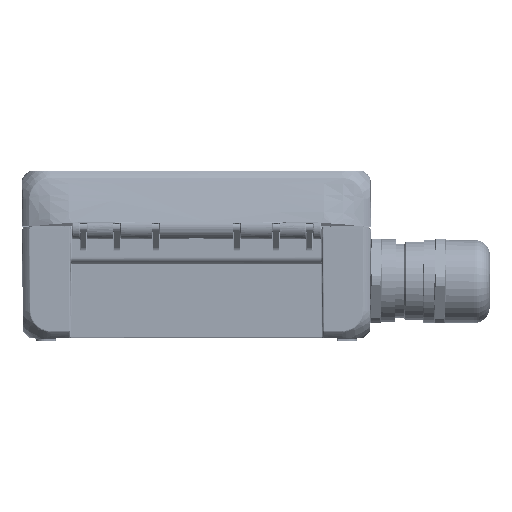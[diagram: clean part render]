
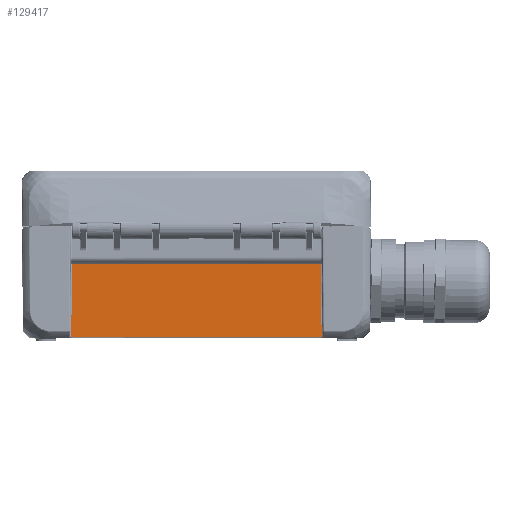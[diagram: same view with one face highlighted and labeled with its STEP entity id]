
A CAD part, left-side view. The second image highlights one B-rep face of the part: STEP entity #129417.
In plain terms, the highlighted planar face has unit normal (-1, 0, -0.009).
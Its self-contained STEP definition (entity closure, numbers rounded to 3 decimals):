
#9568=PLANE('',#137343);
#13799=FACE_OUTER_BOUND('',#21101,.T.);
#21101=EDGE_LOOP('',(#92410,#92411,#92412,#92413));
#32844=LINE('',#178033,#45308);
#32849=LINE('',#178084,#45313);
#32851=LINE('',#178122,#45315);
#32852=LINE('',#178127,#45316);
#45308=VECTOR('',#146906,89.218);
#45313=VECTOR('',#146941,26.011);
#45315=VECTOR('',#146951,89.672);
#45316=VECTOR('',#146958,26.011);
#59290=VERTEX_POINT('',#178027);
#59292=VERTEX_POINT('',#178031);
#59298=VERTEX_POINT('',#178083);
#59300=VERTEX_POINT('',#178121);
#72169=EDGE_CURVE('',#59292,#59290,#32844,.T.);
#72182=EDGE_CURVE('',#59290,#59298,#32849,.T.);
#72187=EDGE_CURVE('',#59298,#59300,#32851,.T.);
#72190=EDGE_CURVE('',#59300,#59292,#32852,.T.);
#92410=ORIENTED_EDGE('',*,*,#72169,.F.);
#92411=ORIENTED_EDGE('',*,*,#72190,.F.);
#92412=ORIENTED_EDGE('',*,*,#72187,.F.);
#92413=ORIENTED_EDGE('',*,*,#72182,.F.);
#129417=ADVANCED_FACE('',(#13799),#9568,.F.);
#137343=AXIS2_PLACEMENT_3D('',#178126,#146956,#146957);
#146906=DIRECTION('',(0.,-1.,0.));
#146941=DIRECTION('',(0.009,-0.009,-1.));
#146951=DIRECTION('',(0.,1.,0.));
#146956=DIRECTION('center_axis',(1.,0.,0.009));
#146957=DIRECTION('ref_axis',(0.009,0.,-1.));
#146958=DIRECTION('',(-0.009,-0.009,1.));
#178027=CARTESIAN_POINT('',(-80.382,-44.609,26.504));
#178031=CARTESIAN_POINT('',(-80.382,44.609,26.504));
#178033=CARTESIAN_POINT('',(-80.382,44.609,26.504));
#178083=CARTESIAN_POINT('',(-80.155,-44.836,0.496));
#178084=CARTESIAN_POINT('',(-80.382,-44.609,26.504));
#178121=CARTESIAN_POINT('',(-80.155,44.836,0.496));
#178122=CARTESIAN_POINT('',(-80.155,-44.836,0.496));
#178126=CARTESIAN_POINT('Origin',(-80.491,-45.,39.));
#178127=CARTESIAN_POINT('',(-80.155,44.836,0.496));
